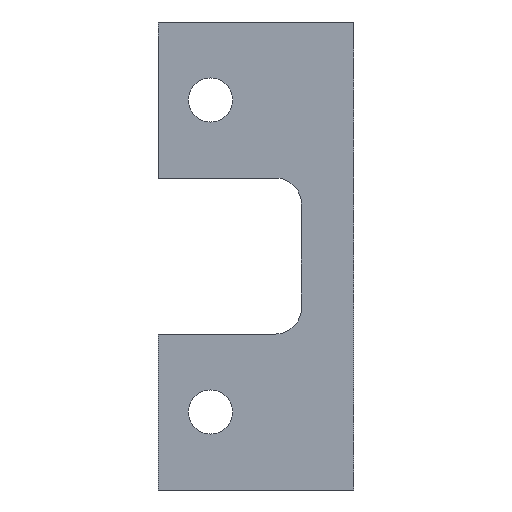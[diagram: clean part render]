
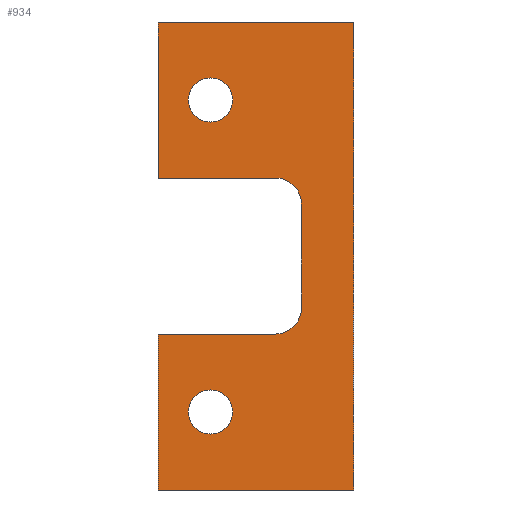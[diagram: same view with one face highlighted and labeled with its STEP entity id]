
A CAD part, front view. The second image highlights one B-rep face of the part: STEP entity #934.
In plain terms, the highlighted planar face has unit normal (0, -1, 0).
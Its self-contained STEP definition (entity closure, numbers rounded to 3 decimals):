
#3 = ORIENTED_EDGE ( 'NONE', *, *, #319, .T. ) ;
#6 = AXIS2_PLACEMENT_3D ( 'NONE', #578, #697, #269 ) ;
#32 = ORIENTED_EDGE ( 'NONE', *, *, #1126, .T. ) ;
#35 = EDGE_CURVE ( 'NONE', #1120, #1109, #1133, .T. ) ;
#39 = DIRECTION ( 'NONE',  ( 0., 0., 1. ) ) ;
#43 = VECTOR ( 'NONE', #1264, 1000. ) ;
#62 = CARTESIAN_POINT ( 'NONE',  ( 0., 0., 36. ) ) ;
#69 = CARTESIAN_POINT ( 'NONE',  ( -11., 0., 7.7 ) ) ;
#81 = ORIENTED_EDGE ( 'NONE', *, *, #1220, .T. ) ;
#86 = AXIS2_PLACEMENT_3D ( 'NONE', #758, #585, #860 ) ;
#92 = DIRECTION ( 'NONE',  ( 0., 0., 1. ) ) ;
#93 = EDGE_LOOP ( 'NONE', ( #548, #300 ) ) ;
#108 = CIRCLE ( 'NONE', #6, 1.7 ) ;
#116 = CARTESIAN_POINT ( 'NONE',  ( -4., 0., 36. ) ) ;
#119 = CARTESIAN_POINT ( 'NONE',  ( -15., 0., 36. ) ) ;
#132 = CARTESIAN_POINT ( 'NONE',  ( -11., 0., 4.3 ) ) ;
#153 = CIRCLE ( 'NONE', #895, 2. ) ;
#181 = EDGE_CURVE ( 'NONE', #501, #1120, #1285, .T. ) ;
#191 = ORIENTED_EDGE ( 'NONE', *, *, #510, .T. ) ;
#201 = VERTEX_POINT ( 'NONE', #488 ) ;
#207 = VERTEX_POINT ( 'NONE', #360 ) ;
#216 = DIRECTION ( 'NONE',  ( 0., 1., 0. ) ) ;
#225 = EDGE_CURVE ( 'NONE', #1311, #812, #1279, .T. ) ;
#229 = VERTEX_POINT ( 'NONE', #1160 ) ;
#236 = VERTEX_POINT ( 'NONE', #69 ) ;
#262 = EDGE_LOOP ( 'NONE', ( #32, #609 ) ) ;
#269 = DIRECTION ( 'NONE',  ( 0., 0., 1. ) ) ;
#274 = ORIENTED_EDGE ( 'NONE', *, *, #565, .T. ) ;
#293 = VERTEX_POINT ( 'NONE', #1057 ) ;
#299 = CARTESIAN_POINT ( 'NONE',  ( -15., 0., 24. ) ) ;
#300 = ORIENTED_EDGE ( 'NONE', *, *, #1032, .T. ) ;
#303 = AXIS2_PLACEMENT_3D ( 'NONE', #1241, #216, #822 ) ;
#319 = EDGE_CURVE ( 'NONE', #293, #1149, #1080, .T. ) ;
#352 = VECTOR ( 'NONE', #893, 1000. ) ;
#360 = CARTESIAN_POINT ( 'NONE',  ( -4., 0., 14. ) ) ;
#363 = EDGE_CURVE ( 'NONE', #1109, #201, #997, .T. ) ;
#400 = CARTESIAN_POINT ( 'NONE',  ( -6., 0., 22. ) ) ;
#404 = EDGE_CURVE ( 'NONE', #207, #501, #153, .T. ) ;
#408 = VERTEX_POINT ( 'NONE', #803 ) ;
#432 = VECTOR ( 'NONE', #1181, 1000. ) ;
#440 = DIRECTION ( 'NONE',  ( 0., 0., -1. ) ) ;
#444 = FACE_BOUND ( 'NONE', #93, .T. ) ;
#450 = VERTEX_POINT ( 'NONE', #132 ) ;
#463 = EDGE_CURVE ( 'NONE', #236, #450, #808, .T. ) ;
#488 = CARTESIAN_POINT ( 'NONE',  ( 0., 0., 0. ) ) ;
#501 = VERTEX_POINT ( 'NONE', #737 ) ;
#510 = EDGE_CURVE ( 'NONE', #1311, #229, #630, .T. ) ;
#511 = CARTESIAN_POINT ( 'NONE',  ( -6., 0., 14. ) ) ;
#520 = LINE ( 'NONE', #299, #1024 ) ;
#530 = DIRECTION ( 'NONE',  ( 0., 0., -1. ) ) ;
#548 = ORIENTED_EDGE ( 'NONE', *, *, #463, .T. ) ;
#553 = PLANE ( 'NONE',  #1083 ) ;
#560 = DIRECTION ( 'NONE',  ( 0., 1., 0. ) ) ;
#565 = EDGE_CURVE ( 'NONE', #1149, #207, #1037, .T. ) ;
#578 = CARTESIAN_POINT ( 'NONE',  ( -11., 0., 6. ) ) ;
#585 = DIRECTION ( 'NONE',  ( 0., 1., 0. ) ) ;
#590 = CARTESIAN_POINT ( 'NONE',  ( -15., 0., 0. ) ) ;
#592 = DIRECTION ( 'NONE',  ( 0., 0., 1. ) ) ;
#602 = DIRECTION ( 'NONE',  ( 0., 1., 0. ) ) ;
#607 = CARTESIAN_POINT ( 'NONE',  ( 0., 0., 36. ) ) ;
#609 = ORIENTED_EDGE ( 'NONE', *, *, #659, .T. ) ;
#616 = CARTESIAN_POINT ( 'NONE',  ( -11., 0., 31.7 ) ) ;
#630 = LINE ( 'NONE', #923, #690 ) ;
#650 = CARTESIAN_POINT ( 'NONE',  ( -15., 0., 36. ) ) ;
#659 = EDGE_CURVE ( 'NONE', #408, #1179, #1042, .T. ) ;
#683 = CARTESIAN_POINT ( 'NONE',  ( -15., 0., 12. ) ) ;
#687 = VECTOR ( 'NONE', #739, 1000. ) ;
#689 = CARTESIAN_POINT ( 'NONE',  ( -15., 0., 0. ) ) ;
#690 = VECTOR ( 'NONE', #440, 1000. ) ;
#692 = VECTOR ( 'NONE', #530, 1000. ) ;
#695 = DIRECTION ( 'NONE',  ( 0., 0., 1. ) ) ;
#697 = DIRECTION ( 'NONE',  ( 0., 1., 0. ) ) ;
#712 = ORIENTED_EDGE ( 'NONE', *, *, #1072, .F. ) ;
#725 = AXIS2_PLACEMENT_3D ( 'NONE', #400, #918, #695 ) ;
#735 = FACE_OUTER_BOUND ( 'NONE', #1254, .T. ) ;
#737 = CARTESIAN_POINT ( 'NONE',  ( -6., 0., 12. ) ) ;
#739 = DIRECTION ( 'NONE',  ( 0., 0., -1. ) ) ;
#758 = CARTESIAN_POINT ( 'NONE',  ( -11., 0., 30. ) ) ;
#761 = ORIENTED_EDGE ( 'NONE', *, *, #181, .T. ) ;
#776 = CARTESIAN_POINT ( 'NONE',  ( -15., 0., 36. ) ) ;
#794 = AXIS2_PLACEMENT_3D ( 'NONE', #1173, #1078, #592 ) ;
#800 = DIRECTION ( 'NONE',  ( 1., 0., 0. ) ) ;
#803 = CARTESIAN_POINT ( 'NONE',  ( -11., 0., 28.3 ) ) ;
#808 = CIRCLE ( 'NONE', #303, 1.7 ) ;
#812 = VERTEX_POINT ( 'NONE', #607 ) ;
#822 = DIRECTION ( 'NONE',  ( 0., 0., 1. ) ) ;
#836 = ORIENTED_EDGE ( 'NONE', *, *, #363, .T. ) ;
#841 = FACE_BOUND ( 'NONE', #262, .T. ) ;
#860 = DIRECTION ( 'NONE',  ( 0., 0., 1. ) ) ;
#893 = DIRECTION ( 'NONE',  ( 0., 0., -1. ) ) ;
#895 = AXIS2_PLACEMENT_3D ( 'NONE', #511, #602, #92 ) ;
#899 = CIRCLE ( 'NONE', #794, 1.7 ) ;
#918 = DIRECTION ( 'NONE',  ( 0., 1., 0. ) ) ;
#923 = CARTESIAN_POINT ( 'NONE',  ( -15., 0., 36. ) ) ;
#934 = ADVANCED_FACE ( 'NONE', ( #444, #841, #735 ), #553, .F. ) ;
#997 = LINE ( 'NONE', #590, #999 ) ;
#999 = VECTOR ( 'NONE', #800, 1000. ) ;
#1024 = VECTOR ( 'NONE', #1207, 1000. ) ;
#1032 = EDGE_CURVE ( 'NONE', #450, #236, #108, .T. ) ;
#1037 = LINE ( 'NONE', #116, #692 ) ;
#1042 = CIRCLE ( 'NONE', #86, 1.7 ) ;
#1057 = CARTESIAN_POINT ( 'NONE',  ( -6., 0., 24. ) ) ;
#1071 = CARTESIAN_POINT ( 'NONE',  ( -15., 0., 12. ) ) ;
#1072 = EDGE_CURVE ( 'NONE', #812, #201, #1191, .T. ) ;
#1078 = DIRECTION ( 'NONE',  ( 0., 1., 0. ) ) ;
#1080 = CIRCLE ( 'NONE', #725, 2. ) ;
#1083 = AXIS2_PLACEMENT_3D ( 'NONE', #1157, #560, #39 ) ;
#1109 = VERTEX_POINT ( 'NONE', #689 ) ;
#1114 = ORIENTED_EDGE ( 'NONE', *, *, #404, .T. ) ;
#1120 = VERTEX_POINT ( 'NONE', #683 ) ;
#1126 = EDGE_CURVE ( 'NONE', #1179, #408, #899, .T. ) ;
#1133 = LINE ( 'NONE', #650, #687 ) ;
#1149 = VERTEX_POINT ( 'NONE', #1299 ) ;
#1157 = CARTESIAN_POINT ( 'NONE',  ( -15., 0., 36. ) ) ;
#1160 = CARTESIAN_POINT ( 'NONE',  ( -15., 0., 24. ) ) ;
#1173 = CARTESIAN_POINT ( 'NONE',  ( -11., 0., 30. ) ) ;
#1179 = VERTEX_POINT ( 'NONE', #616 ) ;
#1181 = DIRECTION ( 'NONE',  ( -1., 0., 0. ) ) ;
#1191 = LINE ( 'NONE', #62, #352 ) ;
#1207 = DIRECTION ( 'NONE',  ( 1., 0., 0. ) ) ;
#1220 = EDGE_CURVE ( 'NONE', #229, #293, #520, .T. ) ;
#1241 = CARTESIAN_POINT ( 'NONE',  ( -11., 0., 6. ) ) ;
#1254 = EDGE_LOOP ( 'NONE', ( #1114, #761, #1280, #836, #712, #1282, #191, #81, #3, #274 ) ) ;
#1264 = DIRECTION ( 'NONE',  ( 1., 0., 0. ) ) ;
#1279 = LINE ( 'NONE', #776, #43 ) ;
#1280 = ORIENTED_EDGE ( 'NONE', *, *, #35, .T. ) ;
#1282 = ORIENTED_EDGE ( 'NONE', *, *, #225, .F. ) ;
#1285 = LINE ( 'NONE', #1071, #432 ) ;
#1299 = CARTESIAN_POINT ( 'NONE',  ( -4., 0., 22. ) ) ;
#1311 = VERTEX_POINT ( 'NONE', #119 ) ;
